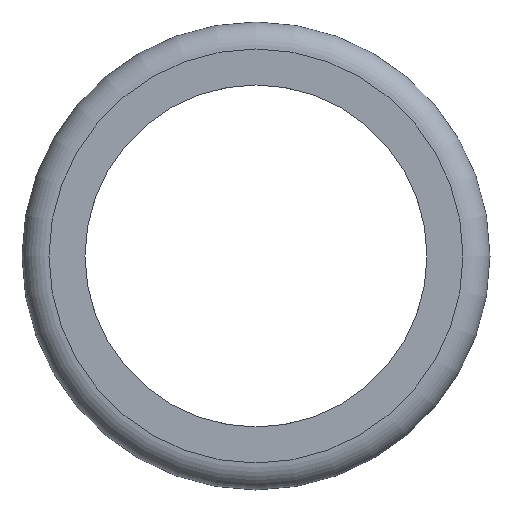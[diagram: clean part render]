
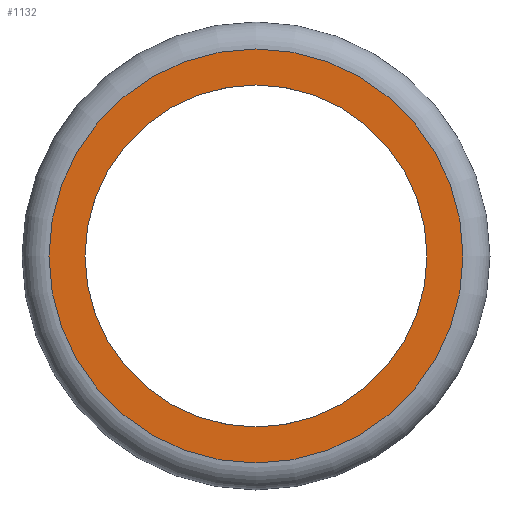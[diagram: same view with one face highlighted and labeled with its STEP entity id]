
A CAD part, front view. The second image highlights one B-rep face of the part: STEP entity #1132.
In plain terms, the highlighted planar face has unit normal (0, -1, 0).
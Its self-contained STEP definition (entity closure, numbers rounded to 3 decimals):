
#15=FACE_BOUND('',#315,.T.);
#194=PLANE('',#1255);
#254=FACE_OUTER_BOUND('',#314,.T.);
#314=EDGE_LOOP('',(#1051));
#315=EDGE_LOOP('',(#1052));
#353=CIRCLE('',#1228,9.5);
#362=CIRCLE('',#1249,11.5);
#523=VERTEX_POINT('',#2365);
#529=VERTEX_POINT('',#2444);
#683=EDGE_CURVE('',#523,#523,#353,.T.);
#701=EDGE_CURVE('',#529,#529,#362,.T.);
#1051=ORIENTED_EDGE('',*,*,#701,.F.);
#1052=ORIENTED_EDGE('',*,*,#683,.T.);
#1132=ADVANCED_FACE('',(#254,#15),#194,.T.);
#1228=AXIS2_PLACEMENT_3D('',#2366,#1476,#1477);
#1249=AXIS2_PLACEMENT_3D('',#2445,#1523,#1524);
#1255=AXIS2_PLACEMENT_3D('',#2455,#1536,#1537);
#1476=DIRECTION('center_axis',(0.,1.,0.));
#1477=DIRECTION('ref_axis',(1.,0.,0.));
#1523=DIRECTION('center_axis',(0.,1.,0.));
#1524=DIRECTION('ref_axis',(1.,0.,0.));
#1536=DIRECTION('center_axis',(0.,-1.,0.));
#1537=DIRECTION('ref_axis',(1.,0.,0.));
#2365=CARTESIAN_POINT('',(-9.5,-2.,0.));
#2366=CARTESIAN_POINT('Origin',(0.,-2.,0.));
#2444=CARTESIAN_POINT('',(0.,-2.,11.5));
#2445=CARTESIAN_POINT('Origin',(0.,-2.,0.));
#2455=CARTESIAN_POINT('Origin',(0.,-2.,0.));
